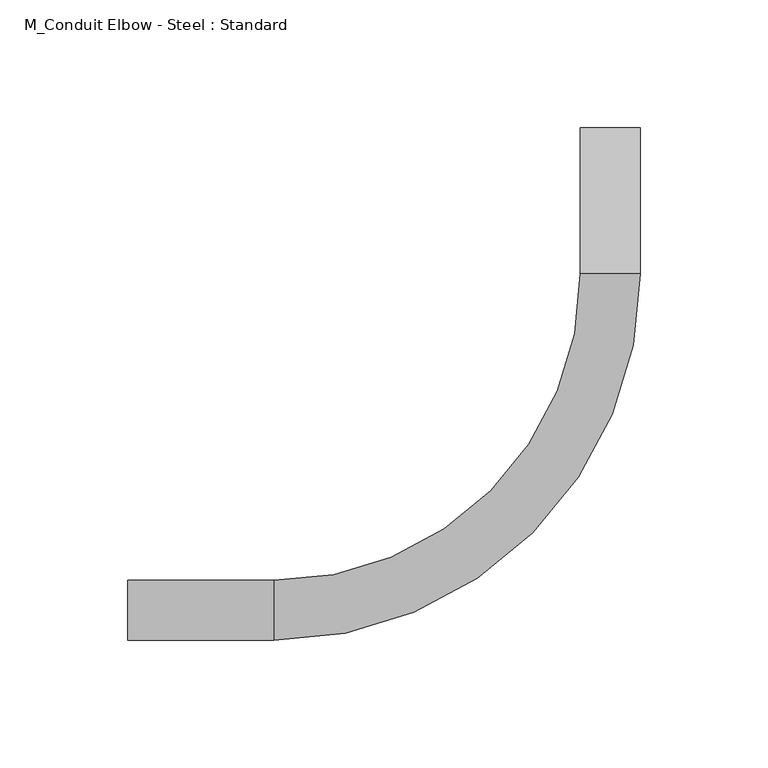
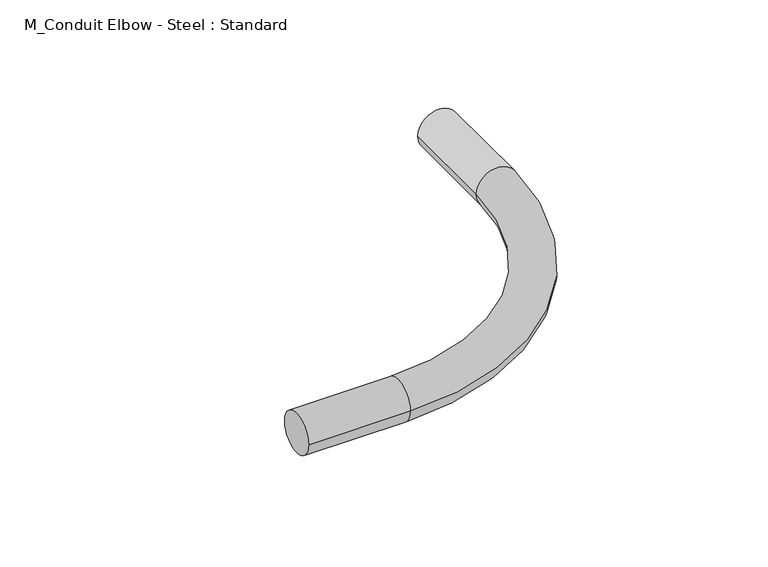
"""IFC4 building model written with IfcOpenShell, lengths in millimetres: cable carrier fitting geometry, M_Conduit Elbow - Steel : Standard."""

from ifc_helpers import new_model, si_unit, point, frame, origin, place, context, project, spatial, circle_curve, ellipse_curve, trimmed, source, transform, mapped, element, save
from ifc_brep_helpers import plane_surface, cylinder_surface, revolved_surface, advanced_brep


def m_conduit_elbow_steel_standard_5c2c710b(model_context):
    return source(origin(), model_context, "Body", "AdvancedBrep", [
        advanced_brep(
        [(-188.9125, -11.7094, 0.0), (-188.9125, 11.7094, 0.0), (-131.7625, -11.7094, 0.0), (-131.7625, 11.7094, 0.0), (-11.7094, 131.7625, 0.0), (11.7094, 131.7625, 0.0), (11.7094, 188.9125, 0.0), (-11.7094, 188.9125, 0.0)],
        [
            (0, 1, circle_curve(frame((-188.9125, 0.0, 0.0), z_axis=(-1.0, 0.0, 0.0), x_axis=(0.0, 1.0, 0.0)), 11.7094)),
            (1, 0, circle_curve(frame((-188.9125, 0.0, 0.0), z_axis=(-1.0, 0.0, 0.0), x_axis=(0.0, 1.0, 0.0)), 11.7094)),
            (0, 2),
            (2, 3, circle_curve(frame((-131.7625, 0.0, 0.0), z_axis=(-1.0, 0.0, 0.0), x_axis=(0.0, 1.0, 0.0)), 11.7094)),
            (3, 1),
            (3, 2, circle_curve(frame((-131.7625, 0.0, 0.0), z_axis=(-1.0, 0.0, 0.0), x_axis=(0.0, 1.0, 0.0)), 11.7094)),
            (4, 3, circle_curve(frame((-131.7625, 131.7625, 0.0), z_axis=(0.0, 0.0, -1.0), x_axis=(0.0, -1.0, 0.0)), 120.0531)),
            (2, 5, circle_curve(frame((-131.7625, 131.7625, 0.0), z_axis=(0.0, 0.0, 1.0), x_axis=(0.0, -1.0, 0.0)), 143.4719)),
            (5, 4, circle_curve(frame((0.0, 131.7625, 0.0), z_axis=(0.0, -1.0, 0.0), x_axis=(-1.0, 0.0, 0.0)), 11.7094)),
            (4, 5, circle_curve(frame((0.0, 131.7625, 0.0), z_axis=(0.0, -1.0, 0.0), x_axis=(-1.0, 0.0, 0.0)), 11.7094)),
            (6, 7, circle_curve(frame((0.0, 188.9125, 0.0), z_axis=(0.0, 1.0, 0.0), x_axis=(-1.0, 0.0, 0.0)), 11.7094)),
            (7, 6, circle_curve(frame((0.0, 188.9125, 0.0), z_axis=(0.0, 1.0, 0.0), x_axis=(-1.0, 0.0, 0.0)), 11.7094)),
            (5, 6),
            (7, 4),
        ],
        [
            plane_surface(frame((-188.9125, 0.0, 0.0), z_axis=(-1.0, 0.0, 0.0), x_axis=(0.0, 0.0, 1.0))),
            cylinder_surface(frame((-188.9125, 0.0, 0.0), z_axis=(-1.0, 0.0, 0.0), x_axis=(0.0, 1.0, 0.0)), 11.7094),
            revolved_surface(trimmed(ellipse_curve(frame((-131.7625, 0.0, 0.0), z_axis=(-1.0, 0.0, 0.0), x_axis=(0.0, 1.0, 0.0)), 11.7094, 11.7094), [point((-131.7625, -11.7094, 0.0))], [point((-131.7625, 11.7094, 0.0))], True, "CARTESIAN"), (-131.7625, 131.7625, 0.0), (0.0, 0.0, 1.0)),
            revolved_surface(trimmed(ellipse_curve(frame((-131.7625, 0.0, 0.0), z_axis=(-1.0, 0.0, 0.0), x_axis=(0.0, 1.0, 0.0)), 11.7094, 11.7094), [point((-131.7625, 11.7094, 0.0))], [point((-131.7625, -11.7094, 0.0))], True, "CARTESIAN"), (-131.7625, 131.7625, 0.0), (0.0, 0.0, 1.0)),
            plane_surface(frame((0.0, 188.9125, 0.0), z_axis=(0.0, 1.0, 0.0), x_axis=(0.0, 0.0, 1.0))),
            cylinder_surface(frame((0.0, 131.7625, 0.0), z_axis=(0.0, -1.0, 0.0), x_axis=(-1.0, 0.0, 0.0)), 11.7094),
        ],
        [
            (0, [[1, 2]]),
            (1, [[-1, 3, 4, 5]]),
            (1, [[-2, -5, 6, -3]]),
            (2, [[7, -4, 8, 9]]),
            (3, [[-8, -6, -7, 10]]),
            (4, [[11, 12]]),
            (5, [[-9, 13, -12, 14]]),
            (5, [[-10, -14, -11, -13]]),
        ],
    ),
    ])


if __name__ == "__main__":
    model = new_model("IFC4")
    model_context = context("Model", 3, world=origin())
    ifc_project = project(units=[si_unit("LENGTHUNIT", "METRE", prefix="MILLI")], contexts=[model_context])
    site = spatial("IfcSite", under=ifc_project)
    building = spatial("IfcBuilding", under=site)
    placement = place(None, origin())
    m_conduit_elbow_steel_standard_shape = m_conduit_elbow_steel_standard_5c2c710b(model_context)
    element("IfcCableCarrierFitting", 1, ObjectType="M_Conduit Elbow - Steel : Standard", at=placement, inside=building, context=model_context, shape_type="MappedRepresentation", body=[
        mapped(m_conduit_elbow_steel_standard_shape, transform((0.0, 0.0, 0.0), x_axis=(1.0, 0.0, 0.0), y_axis=(0.0, 1.0, 0.0), z_axis=(0.0, 0.0, 1.0))),
    ])
    save(model, "model.ifc")
